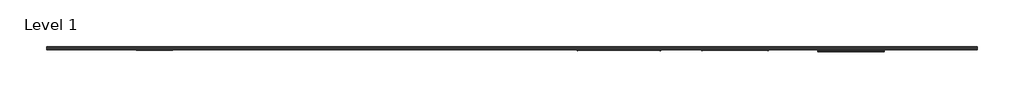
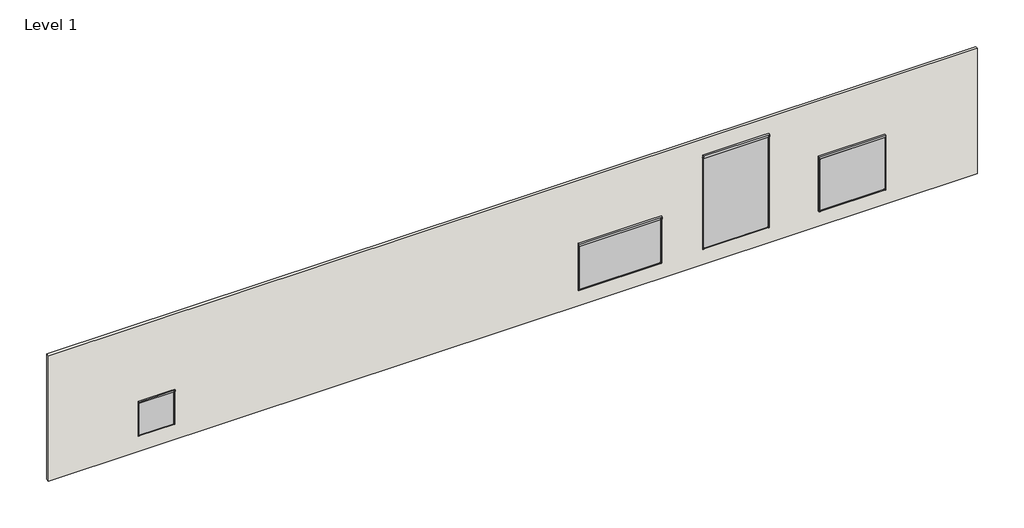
# One storey, incomplete: 4 proxies, 1 wall.
"""IFC4 building model written with IfcOpenShell, lengths in millimetres."""

from ifc_helpers import new_model, si_unit, origin, origin_with_axes, place, context, project, spatial, polyline, outline, extrude, transform, mapped, element, save
from components import generic_models_5faf2f5d, generic_models_8a4777b7, generic_models_36cb86f8, generic_models_0fbfa0ec, zip110_r_zip110_r_12c8bcc6, zip110_r_zip110_r_a34fa557, zip110_r_zip110_r_59bd9ca7, zip80_zip80_a5059c3e

model = new_model("IFC4")

# Units and contexts
model_context = context("Model", 3, world=origin())
ifc_project = project(units=[si_unit("LENGTHUNIT", "METRE", prefix="MILLI")], contexts=[model_context])

# Site, building, storey
site = spatial("IfcSite", under=ifc_project)
building = spatial("IfcBuilding", under=site)
storey = spatial("IfcBuildingStorey", under=building, Name="Level 1", Elevation=0.0)

# Proxies
placement = place(None, origin())
generic_models_shape = generic_models_5faf2f5d(model_context)
generic_models_2_shape = generic_models_8a4777b7(model_context)
element("IfcBuildingElementProxy", 1, Name="ZIP135 + 4 meter bred : ZIP135 + 4 meter bred", ObjectType="ZIP135 + 4 meter bred : ZIP135 + 4 meter bred", at=placement, inside=storey, context=model_context, shape_type="MappedRepresentation", body=[
    mapped(generic_models_shape, transform((16335.2524252, 1647.9607181, 1000.0), x_axis=(1.0, 0.0, 0.0), y_axis=(0.0, 0.0, 1.0), z_axis=(0.0, -1.0, 0.0))),
    mapped(generic_models_2_shape, transform((16335.2524252, 1647.9607181, 1000.0), x_axis=(1.0, 0.0, 0.0), y_axis=(0.0, 0.0, 1.0), z_axis=(0.0, -1.0, 0.0))),
])
generic_models_3_shape = generic_models_36cb86f8(model_context)
generic_models_4_shape = generic_models_0fbfa0ec(model_context)
element("IfcBuildingElementProxy", 2, Name="ZIP135 - 4 meter bred : ZIP135 - 4 meter bred", ObjectType="ZIP135 - 4 meter bred : ZIP135 - 4 meter bred", at=placement, inside=storey, context=model_context, shape_type="MappedRepresentation", body=[
    mapped(generic_models_3_shape, transform((23318.5857585, 1647.9607181, 1000.0), x_axis=(1.0, 0.0, 0.0), y_axis=(0.0, 0.0, 1.0), z_axis=(0.0, -1.0, 0.0))),
    mapped(generic_models_4_shape, transform((23318.5857585, 1647.9607181, 1000.0), x_axis=(1.0, 0.0, 0.0), y_axis=(0.0, 0.0, 1.0), z_axis=(0.0, -1.0, 0.0))),
])
zip110_r_zip110_r_shape = zip110_r_zip110_r_12c8bcc6(model_context)
zip110_r_zip110_r_2_shape = zip110_r_zip110_r_a34fa557(model_context)
zip110_r_zip110_r_3_shape = zip110_r_zip110_r_59bd9ca7(model_context)
element("IfcBuildingElementProxy", 3, Name="ZIP110-R : ZIP110-R", ObjectType="ZIP110-R : ZIP110-R", at=placement, inside=storey, context=model_context, shape_type="MappedRepresentation", body=[
    mapped(zip110_r_zip110_r_shape, transform((30301.9190918, 1647.9607181, 1000.0), x_axis=(1.0, 0.0, 0.0), y_axis=(0.0, 0.0, 1.0), z_axis=(0.0, -1.0, 0.0))),
    mapped(zip110_r_zip110_r_2_shape, transform((30301.9190918, 1647.9607181, 1000.0), x_axis=(1.0, 0.0, 0.0), y_axis=(0.0, 0.0, 1.0), z_axis=(0.0, -1.0, 0.0))),
    mapped(zip110_r_zip110_r_3_shape, transform((30301.9190918, 1647.9607181, 1000.0), x_axis=(1.0, 0.0, 0.0), y_axis=(0.0, 0.0, 1.0), z_axis=(0.0, -1.0, 0.0))),
])
zip80_zip80_shape = zip80_zip80_a5059c3e(model_context)
element("IfcBuildingElementProxy", 4, Name="ZIP80 : ZIP80", ObjectType="ZIP80 : ZIP80", at=placement, inside=storey, context=model_context, shape_type="MappedRepresentation", body=[
    mapped(zip80_zip80_shape, transform((-11598.0809082, 1647.9607181, 916.0), x_axis=(1.0, 0.0, 0.0), y_axis=(0.0, 0.0, 1.0), z_axis=(0.0, -1.0, 0.0))),
])

# Wall
element("IfcWall", 5, ObjectType="Generic - 200mm", at=placement, inside=storey, context=model_context, shape_type="SweptSolid", body=[
    extrude(outline(polyline([(37901.9190918, 1647.9607181), (-18098.0809082, 1647.9607181), (-18098.0809082, 1847.9607181), (37901.9190918, 1847.9607181), (37901.9190918, 1647.9607181)])), origin_with_axes(), (0.0, 0.0, 1.0), 8000.0),
])

save(model, "model.ifc")
